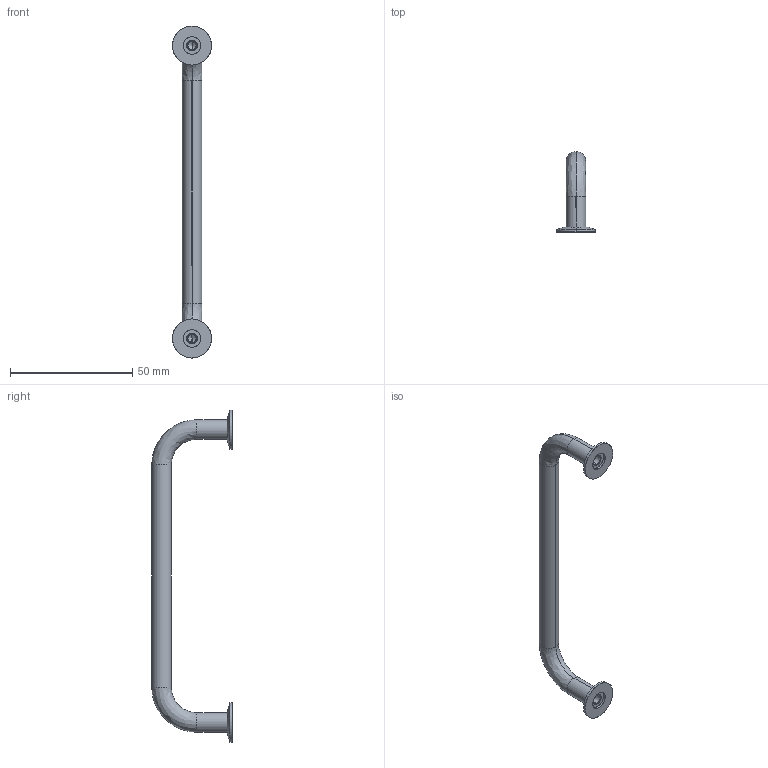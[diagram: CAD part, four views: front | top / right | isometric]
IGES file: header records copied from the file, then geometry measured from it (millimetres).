
Start section: SolidWorks IGES file using analytic representation for surfaces
Global section: file name: C:\Documents and Settings\IANO\Desktop\Temp File\Process pending\PCN pending\78700_v2\78700_v2_20170116_IGES\Default.igs; native system: SolidWorks 2009; preprocessor: SolidWorks 2009; author: IANO; date: 170310.095502; units: millimetre
Bounding box: 16 x 33 x 136 mm (x, y, z)
Surface area: 5249.1 mm2 (no closed solid volume)
Topology: 0 solids, 0 shells, 52 faces, 808 edges, 804 vertices
Faces by surface type: revolution 38, bspline 14
